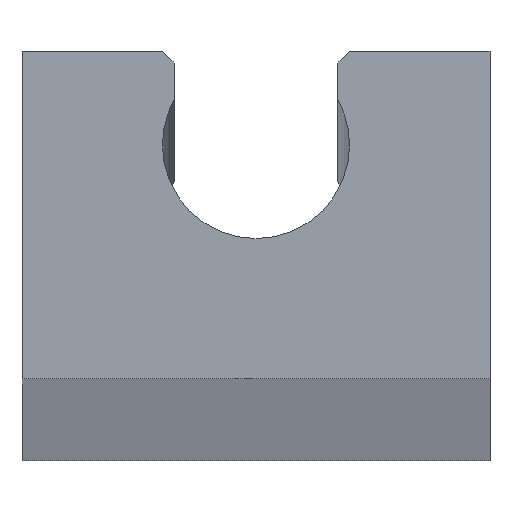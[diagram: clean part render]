
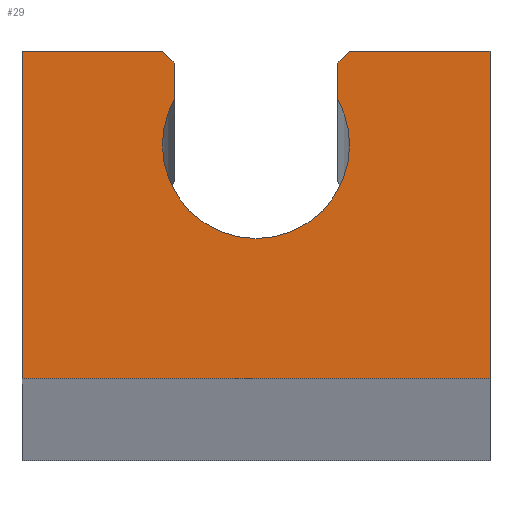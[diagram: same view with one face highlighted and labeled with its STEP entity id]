
A CAD part, top view. The second image highlights one B-rep face of the part: STEP entity #29.
In plain terms, the highlighted planar face has unit normal (0, 0, 1).
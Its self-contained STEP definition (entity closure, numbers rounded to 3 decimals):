
#1 = LINE ( 'NONE', #27, #454 ) ;
#9 = DIRECTION ( 'NONE',  ( 0., -1., 0. ) ) ;
#14 = VERTEX_POINT ( 'NONE', #414 ) ;
#26 = LINE ( 'NONE', #199, #369 ) ;
#27 = CARTESIAN_POINT ( 'NONE',  ( -10., 14., 0. ) ) ;
#28 = ORIENTED_EDGE ( 'NONE', *, *, #347, .T. ) ;
#29 = ADVANCED_FACE ( 'NONE', ( #374 ), #188, .T. ) ;
#33 = VECTOR ( 'NONE', #359, 1000. ) ;
#36 = EDGE_CURVE ( 'NONE', #52, #85, #282, .T. ) ;
#51 = CARTESIAN_POINT ( 'NONE',  ( 0., 10., 0. ) ) ;
#52 = VERTEX_POINT ( 'NONE', #163 ) ;
#59 = DIRECTION ( 'NONE',  ( 0., 0., -1. ) ) ;
#63 = LINE ( 'NONE', #206, #280 ) ;
#74 = CARTESIAN_POINT ( 'NONE',  ( -4., 14., 0. ) ) ;
#75 = VECTOR ( 'NONE', #470, 1000. ) ;
#76 = AXIS2_PLACEMENT_3D ( 'NONE', #51, #265, #84 ) ;
#79 = CARTESIAN_POINT ( 'NONE',  ( 4., 14., 0. ) ) ;
#82 = VERTEX_POINT ( 'NONE', #345 ) ;
#84 = DIRECTION ( 'NONE',  ( 1., 0., 0. ) ) ;
#85 = VERTEX_POINT ( 'NONE', #310 ) ;
#88 = ORIENTED_EDGE ( 'NONE', *, *, #131, .T. ) ;
#101 = VECTOR ( 'NONE', #255, 1000. ) ;
#104 = ORIENTED_EDGE ( 'NONE', *, *, #297, .T. ) ;
#107 = CARTESIAN_POINT ( 'NONE',  ( 3.5, 13.5, 0. ) ) ;
#110 = EDGE_CURVE ( 'NONE', #462, #362, #355, .T. ) ;
#121 = VECTOR ( 'NONE', #138, 1000. ) ;
#123 = EDGE_CURVE ( 'NONE', #340, #198, #26, .T. ) ;
#124 = DIRECTION ( 'NONE',  ( 1., 0., 0. ) ) ;
#125 = ORIENTED_EDGE ( 'NONE', *, *, #36, .T. ) ;
#128 = LINE ( 'NONE', #202, #121 ) ;
#131 = EDGE_CURVE ( 'NONE', #198, #14, #1, .T. ) ;
#132 = AXIS2_PLACEMENT_3D ( 'NONE', #438, #59, #392 ) ;
#135 = CARTESIAN_POINT ( 'NONE',  ( 10., 14., 0. ) ) ;
#138 = DIRECTION ( 'NONE',  ( 0., 1., 0. ) ) ;
#139 = DIRECTION ( 'NONE',  ( 0., -1., 0. ) ) ;
#147 = CIRCLE ( 'NONE', #422, 4. ) ;
#152 = VECTOR ( 'NONE', #9, 1000. ) ;
#158 = ORIENTED_EDGE ( 'NONE', *, *, #239, .T. ) ;
#163 = CARTESIAN_POINT ( 'NONE',  ( 3.5, 11.936, 0. ) ) ;
#174 = DIRECTION ( 'NONE',  ( 1., 0., 0. ) ) ;
#176 = ORIENTED_EDGE ( 'NONE', *, *, #264, .T. ) ;
#188 = PLANE ( 'NONE',  #231 ) ;
#191 = VERTEX_POINT ( 'NONE', #107 ) ;
#198 = VERTEX_POINT ( 'NONE', #240 ) ;
#199 = CARTESIAN_POINT ( 'NONE',  ( -3.5, 14., 0. ) ) ;
#202 = CARTESIAN_POINT ( 'NONE',  ( -3.5, 14., 0. ) ) ;
#206 = CARTESIAN_POINT ( 'NONE',  ( -10., 0., 0. ) ) ;
#211 = CARTESIAN_POINT ( 'NONE',  ( -3.5, 11.936, 0. ) ) ;
#212 = CARTESIAN_POINT ( 'NONE',  ( 0., 10., 0. ) ) ;
#214 = LINE ( 'NONE', #445, #101 ) ;
#231 = AXIS2_PLACEMENT_3D ( 'NONE', #453, #339, #124 ) ;
#235 = ORIENTED_EDGE ( 'NONE', *, *, #110, .T. ) ;
#236 = DIRECTION ( 'NONE',  ( 0., 0., -1. ) ) ;
#239 = EDGE_CURVE ( 'NONE', #318, #388, #378, .T. ) ;
#240 = CARTESIAN_POINT ( 'NONE',  ( -10., 14., 0. ) ) ;
#243 = LINE ( 'NONE', #273, #75 ) ;
#255 = DIRECTION ( 'NONE',  ( 0., 1., 0. ) ) ;
#264 = EDGE_CURVE ( 'NONE', #14, #82, #63, .T. ) ;
#265 = DIRECTION ( 'NONE',  ( 0., 0., -1. ) ) ;
#273 = CARTESIAN_POINT ( 'NONE',  ( 0., 10., 0. ) ) ;
#274 = DIRECTION ( 'NONE',  ( 1., 0., 0. ) ) ;
#276 = CARTESIAN_POINT ( 'NONE',  ( 10., 14., 0. ) ) ;
#280 = VECTOR ( 'NONE', #274, 1000. ) ;
#282 = CIRCLE ( 'NONE', #76, 4. ) ;
#286 = DIRECTION ( 'NONE',  ( -0.707, 0.707, 0. ) ) ;
#289 = CARTESIAN_POINT ( 'NONE',  ( 3.5, 14., 0. ) ) ;
#297 = EDGE_CURVE ( 'NONE', #191, #52, #333, .T. ) ;
#303 = VECTOR ( 'NONE', #286, 1000. ) ;
#310 = CARTESIAN_POINT ( 'NONE',  ( 4., 10., 0. ) ) ;
#318 = VERTEX_POINT ( 'NONE', #365 ) ;
#320 = EDGE_LOOP ( 'NONE', ( #235, #411, #104, #125, #385, #158, #424, #349, #337, #88, #176, #28 ) ) ;
#333 = LINE ( 'NONE', #289, #152 ) ;
#337 = ORIENTED_EDGE ( 'NONE', *, *, #123, .T. ) ;
#339 = DIRECTION ( 'NONE',  ( 0., 0., 1. ) ) ;
#340 = VERTEX_POINT ( 'NONE', #74 ) ;
#341 = EDGE_CURVE ( 'NONE', #459, #340, #402, .T. ) ;
#345 = CARTESIAN_POINT ( 'NONE',  ( 10., 0., 0. ) ) ;
#347 = EDGE_CURVE ( 'NONE', #82, #462, #214, .T. ) ;
#349 = ORIENTED_EDGE ( 'NONE', *, *, #341, .T. ) ;
#355 = LINE ( 'NONE', #276, #33 ) ;
#359 = DIRECTION ( 'NONE',  ( -1., 0., 0. ) ) ;
#362 = VERTEX_POINT ( 'NONE', #79 ) ;
#365 = CARTESIAN_POINT ( 'NONE',  ( -4., 10., 0. ) ) ;
#369 = VECTOR ( 'NONE', #468, 1000. ) ;
#374 = FACE_OUTER_BOUND ( 'NONE', #320, .T. ) ;
#378 = CIRCLE ( 'NONE', #132, 4. ) ;
#383 = CARTESIAN_POINT ( 'NONE',  ( -3.5, 13.5, 0. ) ) ;
#385 = ORIENTED_EDGE ( 'NONE', *, *, #449, .T. ) ;
#388 = VERTEX_POINT ( 'NONE', #211 ) ;
#392 = DIRECTION ( 'NONE',  ( 1., 0., 0. ) ) ;
#402 = LINE ( 'NONE', #212, #303 ) ;
#411 = ORIENTED_EDGE ( 'NONE', *, *, #464, .T. ) ;
#414 = CARTESIAN_POINT ( 'NONE',  ( -10., 0., 0. ) ) ;
#420 = EDGE_CURVE ( 'NONE', #388, #459, #128, .T. ) ;
#422 = AXIS2_PLACEMENT_3D ( 'NONE', #431, #236, #174 ) ;
#424 = ORIENTED_EDGE ( 'NONE', *, *, #420, .T. ) ;
#431 = CARTESIAN_POINT ( 'NONE',  ( 0., 10., 0. ) ) ;
#438 = CARTESIAN_POINT ( 'NONE',  ( 0., 10., 0. ) ) ;
#445 = CARTESIAN_POINT ( 'NONE',  ( 10., 14., 0. ) ) ;
#449 = EDGE_CURVE ( 'NONE', #85, #318, #147, .T. ) ;
#453 = CARTESIAN_POINT ( 'NONE',  ( 0., 10., 0. ) ) ;
#454 = VECTOR ( 'NONE', #139, 1000. ) ;
#459 = VERTEX_POINT ( 'NONE', #383 ) ;
#462 = VERTEX_POINT ( 'NONE', #135 ) ;
#464 = EDGE_CURVE ( 'NONE', #362, #191, #243, .T. ) ;
#468 = DIRECTION ( 'NONE',  ( -1., 0., 0. ) ) ;
#470 = DIRECTION ( 'NONE',  ( -0.707, -0.707, 0. ) ) ;
